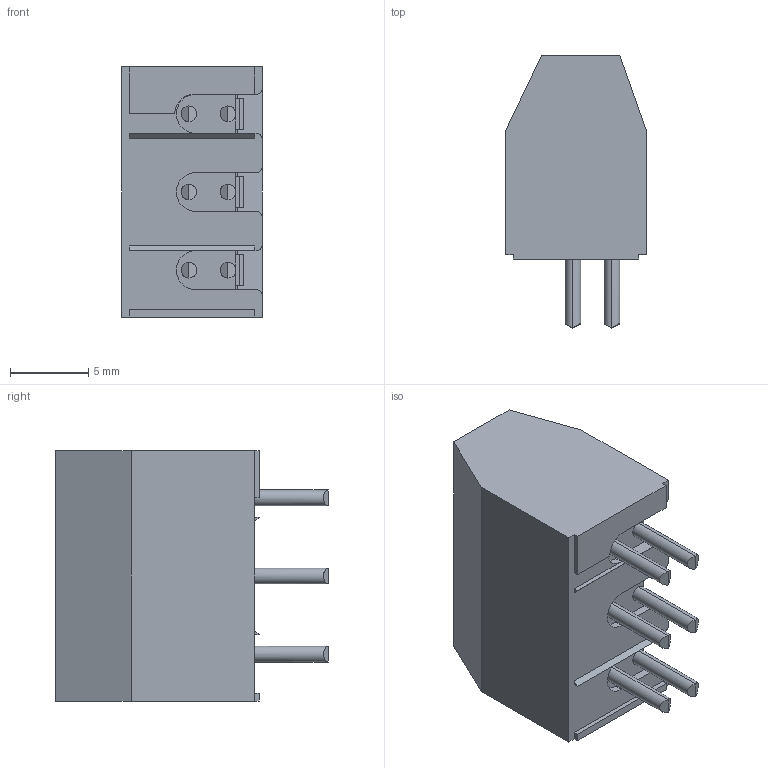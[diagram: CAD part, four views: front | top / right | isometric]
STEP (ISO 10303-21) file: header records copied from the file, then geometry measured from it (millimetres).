
FILE_DESCRIPTION (( 'STEP AP214' ), '1' );
FILE_NAME ('978-Y-DS-03.STEP', '2009-01-29T14:29:15', ( 'weco' ), ( 'weco' ), 'SwSTEP 2.0', 'SolidWorks 2007', '' );
FILE_SCHEMA (( 'AUTOMOTIVE_DESIGN' ));
Length unit declared in the file: millimetre
Products named in the file (1): 978-Y-DS-03
Bounding box: 9 x 17.4 x 16 mm (x, y, z)
Volume: 1498.3 mm3; surface area: 1290.4 mm2
Topology: 1 solids, 1 shells, 294 faces, 870 edges, 569 vertices
Faces by surface type: plane 206, cylinder 70, cone 18
Entity records: 9973 total; most frequent: CARTESIAN_POINT 2061, ORIENTED_EDGE 1740, DIRECTION 1558, EDGE_CURVE 870, VECTOR 610, LINE 610, VERTEX_POINT 569, AXIS2_PLACEMENT_3D 474
